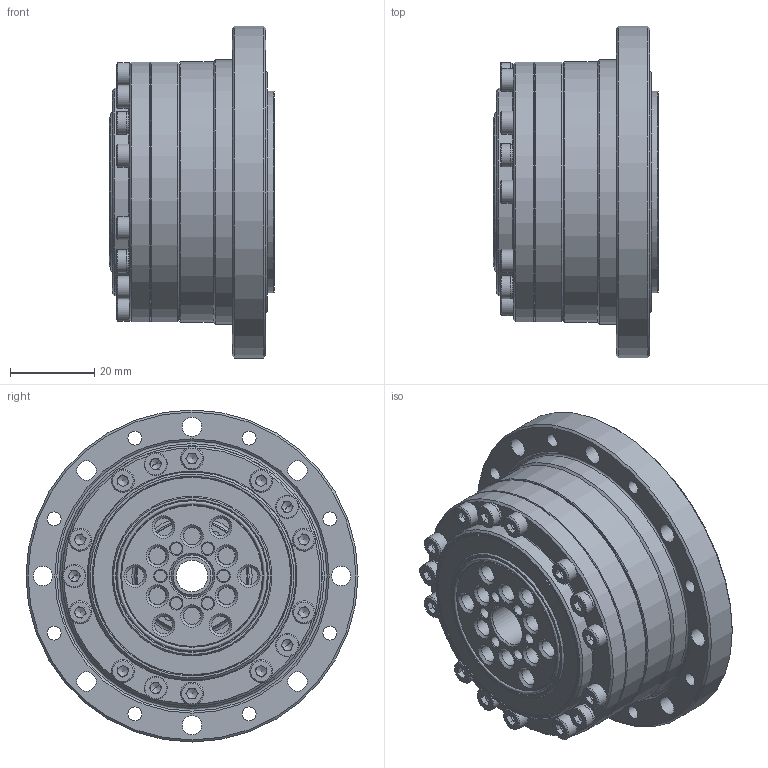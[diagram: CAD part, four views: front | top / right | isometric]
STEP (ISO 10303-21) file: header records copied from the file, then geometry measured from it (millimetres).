
FILE_DESCRIPTION(/* description */ (''),/* implementation_level */ '2;1');
FILE_NAME(/* name */ 'Getriebeset_CTG_Plus_BG43_FK.stp',/* time_stamp */ '2026-03-10T14:13:35+01:00',/* author */ (''),/* organization */ (''),/* preprocessor_version */ 'ST-DEVELOPER v19.4',/* originating_system */ 'SIEMENS PLM Software NX2212.9120',/* authorisation */ '');
FILE_SCHEMA (('AUTOMOTIVE_DESIGN { 1 0 10303 214 3 1 1 1 }'));
Length unit declared in the file: millimetre
Products named in the file (1): Getriebeset_CTG_Plus_BG43_FK
Bounding box: 39.3 x 79 x 79 mm (x, y, z)
Volume: 93296.3 mm3; surface area: 72859.5 mm2
Topology: 103 solids, 103 shells, 1285 faces, 2862 edges, 1786 vertices
Faces by surface type: plane 544, cylinder 304, cone 222, torus 178, sphere 35, bspline 2
Full cylindrical faces by diameter (mm): 2.5 x25, 2.6 x2, 2.8 x6, 3 x61, 3.3 x8, 3.5 x10, 3.6 x15, 4 x8, 4.2 x12, 4.6 x8, 5 x8, 5.3 x5, 5.5 x33, 7.5 x1, 8.5 x8, 10 x3, 11.5 x1, 13.5 x1, 25 x1, 26.5 x1, 27.2 x1, 28.88 x1, 29 x1, 30 x3, 32.9 x3, 33.8 x1, 36 x1, 37 x1, 37.5 x1, 38 x2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
Entity records: 33571 total; most frequent: CARTESIAN_POINT 7514, DIRECTION 5489, ORIENTED_EDGE 3944, AXIS2_PLACEMENT_3D 2415, EDGE_LOOP 2124, EDGE_CURVE 1972, FACE_BOUND 1637, VERTEX_POINT 1595
